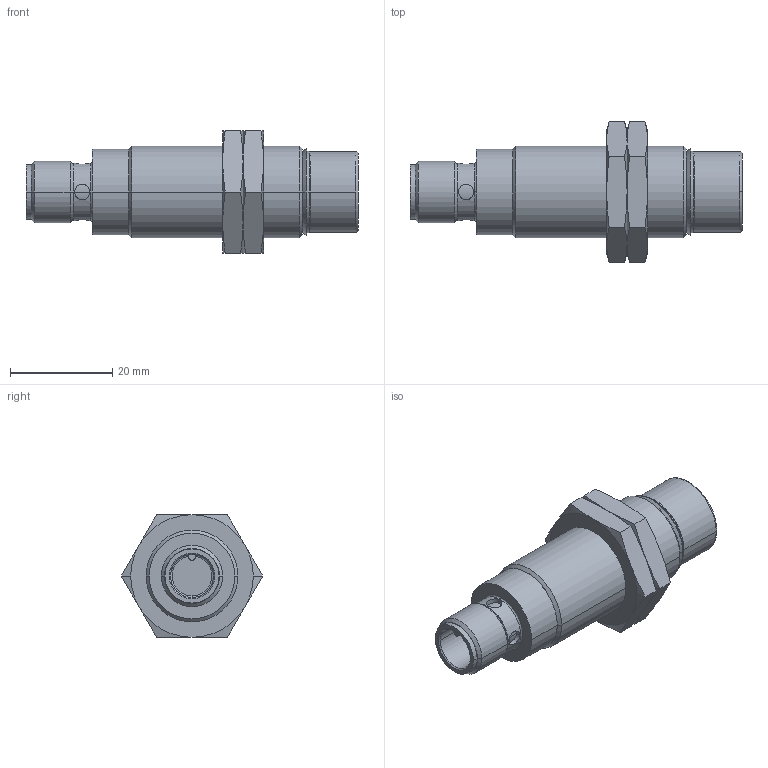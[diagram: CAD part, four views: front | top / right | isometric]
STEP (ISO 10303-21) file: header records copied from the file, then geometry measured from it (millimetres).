
FILE_DESCRIPTION( ( '' ), '1' );
FILE_NAME( '//partserver001.servicenet/client_exchange/iodir/jobs/output/wkb12388503_no0/STEP/igw201_2_03.stp', '2008-10-06T06:37:00', ( '' ), ( '' ), ' ', ' ', ' ' );
FILE_SCHEMA( ( 'CONFIG_CONTROL_DESIGN' ) );
Length unit declared in the file: millimetre
Products named in the file (3): 1; 2; 3
Bounding box: 65 x 27.71 x 24 mm (x, y, z)
Volume: 15364.6 mm3; surface area: 6175.2 mm2
Topology: 3 solids, 3 shells, 127 faces, 279 edges, 167 vertices
Faces by surface type: cone 54, cylinder 37, plane 28, torus 8
Entity records: 3936 total; most frequent: CARTESIAN_POINT 1098, DIRECTION 594, ORIENTED_EDGE 558, EDGE_CURVE 279, AXIS2_PLACEMENT_3D 255, VERTEX_POINT 167, EDGE_LOOP 140, ADVANCED_FACE 127
